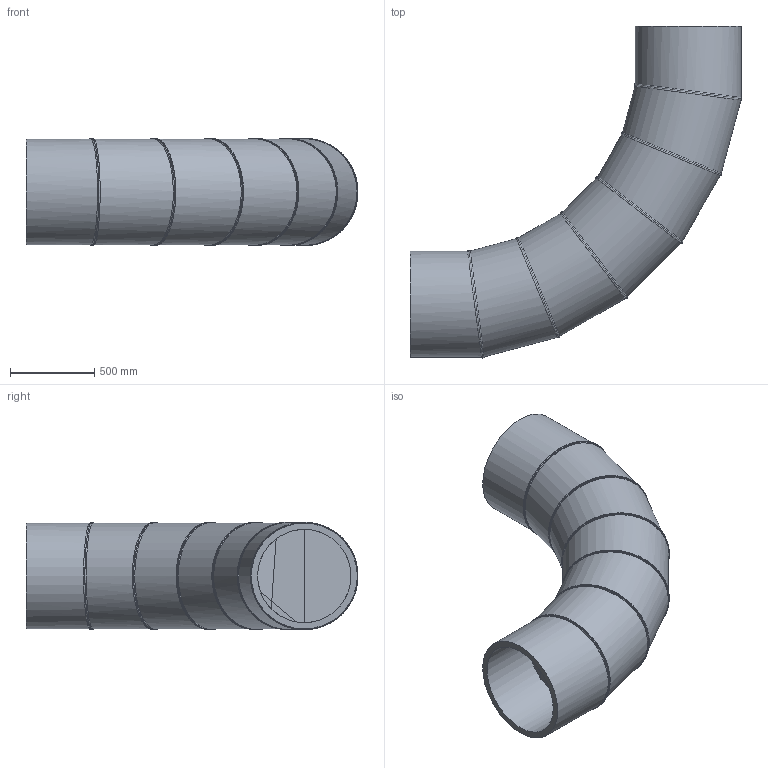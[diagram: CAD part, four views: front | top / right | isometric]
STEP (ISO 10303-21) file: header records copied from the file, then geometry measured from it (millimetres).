
FILE_DESCRIPTION(/* description */ ('Unknown'),/* implementation_level */ '2;1');
FILE_NAME(/* name */ 'Curva 90° a settore DE630 SDR17',/* time_stamp */ '2022-07-27T09:45:46+02:00',/* author */ ('Unknown'),/* organization */ ('Unknown'),/* preprocessor_version */ 'ST-DEVELOPER v18.102',/* originating_system */ 'Solid Edge',/* authorisation */ 'Unknown');
FILE_SCHEMA (('AUTOMOTIVE_DESIGN {1 0 10303 214 3 1 1}'));
Length unit declared in the file: millimetre
Products named in the file (3): Curva 90° a settore DE630 SDR17; Tubo x Gomito 90° DE630 SDR17 - 2; Tubo x Gomito 90° DE630 SDR17 - 1
Assembly tree (7 placements, depth 2):
  Curva 90° a settore DE630 SDR17
    Tubo x Gomito 90° DE630 SDR17 - 2  x5
    Tubo x Gomito 90° DE630 SDR17 - 1  x2
Bounding box: 1973.35 x 1973.35 x 637.99 mm (x, y, z)
Volume: 188434558.6 mm3; surface area: 11137822.4 mm2
Topology: 7 solids, 7 shells, 64 faces, 143 edges, 93 vertices
Faces by surface type: cylinder 38, plane 14, bspline 12
Full cylindrical faces by diameter (mm): 555.2 x7, 630 x7
Entity records: 3446 total; most frequent: CARTESIAN_POINT 3023, DIRECTION 78, ORIENTED_EDGE 52, AXIS2_PLACEMENT_3D 39, EDGE_LOOP 28, FACE_BOUND 28, EDGE_CURVE 26, VERTEX_POINT 20
